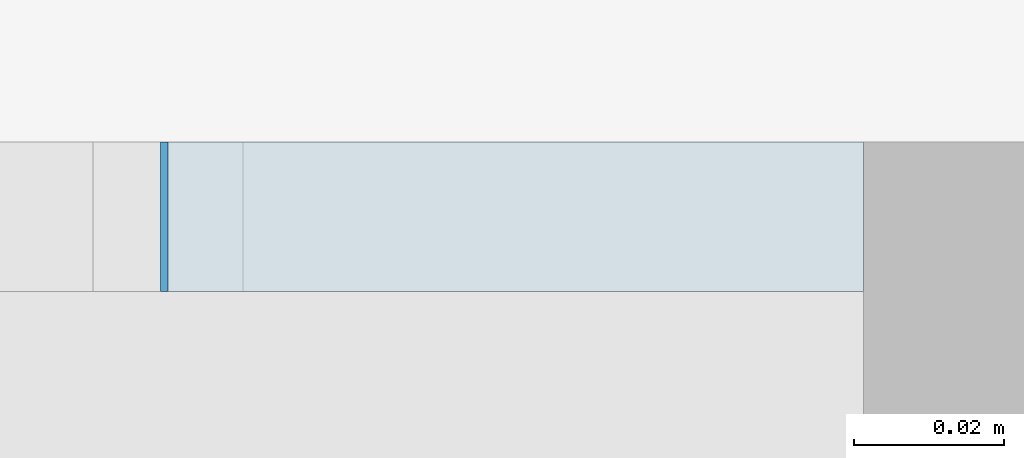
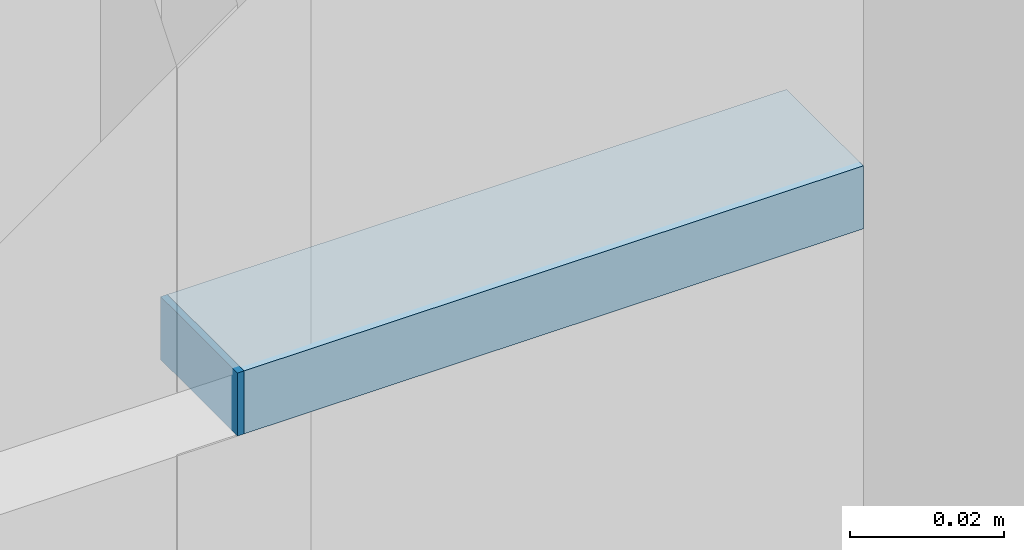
# One storey, part 23 of 46: 2 plates, 1 element without a shape of its own.
"""IFC2X3 building model written with IfcOpenShell, lengths in millimetres."""

from ifc_helpers import new_model, entity, si_unit, converted_unit, derived_unit, direction, frame, origin, origin_2d_with_axis, place, context, subcontext, project, spatial, rectangle, extrude, source, transform, mapped, material, layer, layer_set, layer_usage, type_object, type_shapes, element, aggregate, save


model = new_model("IFC2X3")

# Units and contexts
model_context = context("Model", 3, precision=0.01, world=origin(), true_north=direction((6.12303176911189e-17, 1.0)))
body_context = subcontext(model_context, "Body", "Model", "MODEL_VIEW")
ifc_project = project(units=[si_unit("LENGTHUNIT", "METRE", prefix="MILLI"), si_unit("AREAUNIT", "SQUARE_METRE"), si_unit("VOLUMEUNIT", "CUBIC_METRE"), converted_unit("PLANEANGLEUNIT", "DEGREE", entity("IfcRatioMeasure", 0.0174532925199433), si_unit("PLANEANGLEUNIT", "RADIAN"), dimensions=[0, 0, 0, 0, 0, 0, 0]), si_unit("MASSUNIT", "GRAM", prefix="KILO"), derived_unit("MASSDENSITYUNIT", [(si_unit("MASSUNIT", "GRAM", prefix="KILO"), 1), (si_unit("LENGTHUNIT", "METRE"), -3)]), si_unit("TIMEUNIT", "SECOND"), si_unit("FREQUENCYUNIT", "HERTZ"), si_unit("THERMODYNAMICTEMPERATUREUNIT", "DEGREE_CELSIUS"), derived_unit("THERMALTRANSMITTANCEUNIT", [(si_unit("MASSUNIT", "GRAM", prefix="KILO"), 1), (si_unit("THERMODYNAMICTEMPERATUREUNIT", "KELVIN"), -1), (si_unit("TIMEUNIT", "SECOND"), -3)]), derived_unit("VOLUMETRICFLOWRATEUNIT", [(si_unit("LENGTHUNIT", "METRE"), 3), (si_unit("TIMEUNIT", "SECOND"), -1)]), si_unit("ELECTRICCURRENTUNIT", "AMPERE"), si_unit("ELECTRICVOLTAGEUNIT", "VOLT"), si_unit("POWERUNIT", "WATT"), si_unit("FORCEUNIT", "NEWTON", prefix="KILO"), si_unit("ILLUMINANCEUNIT", "LUX"), si_unit("LUMINOUSFLUXUNIT", "LUMEN"), si_unit("LUMINOUSINTENSITYUNIT", "CANDELA"), derived_unit("USERDEFINED", [(si_unit("MASSUNIT", "GRAM", prefix="KILO"), -1), (si_unit("LENGTHUNIT", "METRE"), -2), (si_unit("TIMEUNIT", "SECOND"), 3), (si_unit("LUMINOUSFLUXUNIT", "LUMEN"), 1)]), derived_unit("LINEARVELOCITYUNIT", [(si_unit("LENGTHUNIT", "METRE"), 1), (si_unit("TIMEUNIT", "SECOND"), -1)]), si_unit("PRESSUREUNIT", "PASCAL"), derived_unit("USERDEFINED", [(si_unit("LENGTHUNIT", "METRE"), -2), (si_unit("MASSUNIT", "GRAM", prefix="KILO"), 1), (si_unit("TIMEUNIT", "SECOND"), -2)])], contexts=[model_context])

# Site, building, storey
site_placement = place(None, frame((-151.875543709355, 2715.0, 0.0)))
site = spatial("IfcSite", under=ifc_project, at=site_placement, Name="Surface", CompositionType="ELEMENT")
building_placement = place(site_placement, origin())
building = spatial("IfcBuilding", under=site, at=building_placement, CompositionType="ELEMENT")
storey_placement = place(building_placement, frame((0.0, 0.0, 10060.0)))
storey = spatial("IfcBuildingStorey", under=building, at=storey_placement, Name="4 korrus", CompositionType="ELEMENT", Elevation=10060.0000000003)

# Curtain wall, plates
curtain_wall_type = type_object("IfcCurtainWallType", Name="Curtain Wall:Klaassein KLS-20", PredefinedType="NOTDEFINED")
curtain_wall_placement = place(storey_placement, frame((0.0, 0.0, -10060.0)))
curtain_wall = element("IfcCurtainWall", 1, at=curtain_wall_placement, inside=storey, type_object=curtain_wall_type, Name="Curtain Wall:Klaassein KLS-20", ObjectType="Curtain Wall:Klaassein KLS-20")
ifc_material = material(Name="<Unnamed>")
ifc_layer = layer(ifc_material, 20.0)
ifc_layer_set = layer_set([ifc_layer], Name="Curtain Wall:Klaassein KLS-01")
ifc_layer_usage_1 = layer_usage(ifc_layer_set, "AXIS3", "POSITIVE", 0.0)
plate_type_1 = type_object("IfcPlateType", Name="Glazed", PredefinedType="CURTAIN_PANEL", material=ifc_layer_set)
shared_shape_1 = source(origin(), body_context, "Body", "SweptSolid", [
    extrude(rectangle(XDim=20.0, YDim=92.9293200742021, at=origin_2d_with_axis()), frame((0.0, 0.0, 0.0), z_axis=(0.0, 0.0, 1.0), x_axis=(0.0, 1.0, 0.0)), (0.0, 0.0, 1.0), 9.99999999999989),
])
type_shapes(plate_type_1, [shared_shape_1])
plate_1_placement = place(curtain_wall_placement, frame((29897.5524993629, 4355.04493399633, 12150.0), z_axis=(0.0, 0.0, 1.0), x_axis=(-1.0, 0.0, 0.0)))
plate_1 = element("IfcPlate", 2, at=plate_1_placement, type_object=plate_type_1, material=ifc_layer_usage_1, Name="System Panel:Glazed", ObjectType="Glazed", context=body_context, shape_type="MappedRepresentation", body=[
    mapped(shared_shape_1, transform((0.0, 0.0, 0.0), scale=1.0)),
])
ifc_layer_usage_2 = layer_usage(ifc_layer_set, "AXIS3", "POSITIVE", 0.0)
plate_type_2 = type_object("IfcPlateType", Name="Glazed", PredefinedType="CURTAIN_PANEL", material=ifc_layer_set)
shared_shape_2 = source(origin(), body_context, "Body", "SweptSolid", [
    extrude(rectangle(XDim=20.0, YDim=0.999999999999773, at=origin_2d_with_axis()), frame((0.0, 0.0, 0.0), z_axis=(0.0, 0.0, 1.0), x_axis=(0.0, 1.0, 0.0)), (0.0, 0.0, 1.0), 9.99999999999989),
])
type_shapes(plate_type_2, [shared_shape_2])
plate_2_placement = place(curtain_wall_placement, frame((29850.5878393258, 4355.04493399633, 12150.0), z_axis=(0.0, 0.0, 1.0), x_axis=(-1.0, 0.0, 0.0)))
plate_2 = element("IfcPlate", 3, at=plate_2_placement, type_object=plate_type_2, material=ifc_layer_usage_2, Name="System Panel:Glazed", ObjectType="Glazed", context=body_context, shape_type="MappedRepresentation", body=[
    mapped(shared_shape_2, transform((0.0, 0.0, 0.0), scale=1.0)),
])
aggregate(curtain_wall, [plate_1, plate_2])

save(model, "model.ifc")
